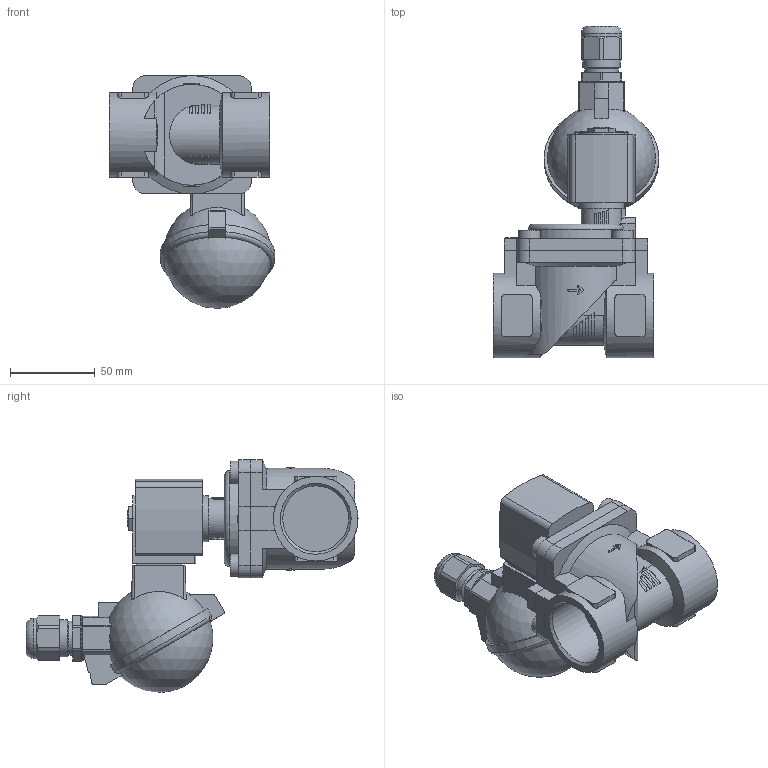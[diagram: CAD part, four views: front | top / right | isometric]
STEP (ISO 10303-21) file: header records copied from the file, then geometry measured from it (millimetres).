
FILE_DESCRIPTION(/* description */ ('STEP AP214'),/* implementation_level */ '2;1');
FILE_NAME(/* name */ '6281-388748-2_2-Way_Solenoid_Valve__Servo-assisted__General_Purpose',/* time_stamp */ '2024-08-27T16:13:12+02:00',/* author */ ('License CC BY-ND 4.0'),/* organization */ ('CADENAS'),/* preprocessor_version */ 'ST-DEVELOPER v19.3',/* originating_system */ 'PARTsolutions',/* authorisation */ ' ');
FILE_SCHEMA (('AUTOMOTIVE_DESIGN {1 0 10303 214 3 1 1}'));
Length unit declared in the file: millimetre
Products named in the file (4): 6281-388748-2/2-Way Solenoid Valve, Servo-assisted, General Purpose; 5281ev250MS2/2-Wege-Magnetventil mit Servomembran-Deckel   ; 6213-25G1_1/4MS-Gehaeuse-; AC10ex-6ATEXKLK_MB05Plan-Coil
Assembly tree (3 placements, depth 2):
  6281-388748-2/2-Way Solenoid Valve, Servo-assisted, General Purpose
    5281ev250MS2/2-Wege-Magnetventil mit Servomembran-Deckel   
    6213-25G1_1/4MS-Gehaeuse-
    AC10ex-6ATEXKLK_MB05Plan-Coil
Bounding box: 97.93 x 196.3 x 137.7 mm (x, y, z)
Volume: 503884 mm3; surface area: 85003.9 mm2
Topology: 3 solids, 3 shells, 383 faces, 1009 edges, 664 vertices
Faces by surface type: plane 238, cylinder 110, cone 27, torus 4, sphere 4
Full cylindrical faces by diameter (mm): 3.242 x1, 9.74 x1, 13 x4, 14 x1, 17.294 x1, 20 x1, 22 x1, 23 x1, 24 x1, 27 x2, 38.952 x2, 50 x2
Entity records: 13392 total; most frequent: CARTESIAN_POINT 2356, DIRECTION 1989, ORIENTED_EDGE 1936, EDGE_CURVE 968, AXIS2_PLACEMENT_3D 724, VERTEX_POINT 650, LINE 541, VECTOR 541
